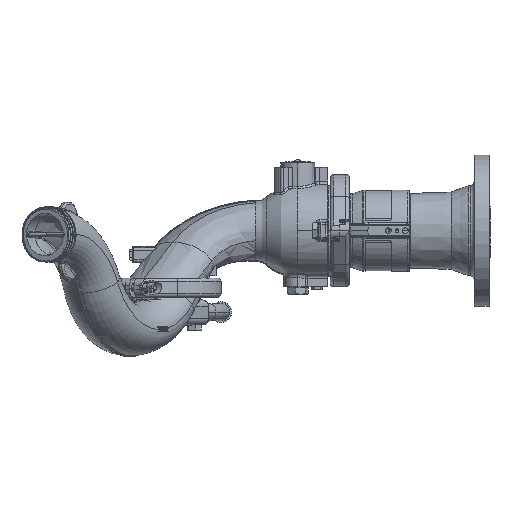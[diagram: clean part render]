
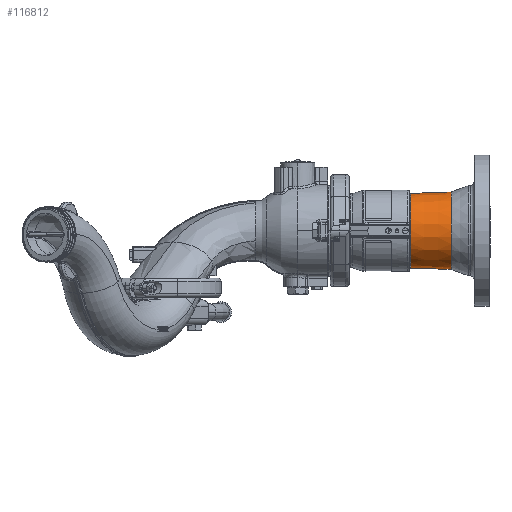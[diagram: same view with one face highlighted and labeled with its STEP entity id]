
A CAD part, left-side view. The second image highlights one B-rep face of the part: STEP entity #116812.
In plain terms, the highlighted conical face has half-angle 2.004 degrees and reference radius 53.046 mm.
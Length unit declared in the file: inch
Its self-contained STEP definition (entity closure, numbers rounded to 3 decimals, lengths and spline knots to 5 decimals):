
#7626 = CARTESIAN_POINT ( 'NONE',  ( 0., -3.44026, -2.08844 ) ) ;
#7627 = DIRECTION ( 'NONE',  ( 0., -0.999, -0.035 ) ) ;
#7634 = DIRECTION ( 'NONE',  ( 0., -0.999, 0.035 ) ) ;
#7635 = CARTESIAN_POINT ( 'NONE',  ( 0., -6.67562, 0. ) ) ;
#7636 = DIRECTION ( 'NONE',  ( 0., -1., 0. ) ) ;
#7637 = DIRECTION ( 'NONE',  ( 0., 0., 1. ) ) ;
#7638 = CARTESIAN_POINT ( 'NONE',  ( 0., -3.44026, 2.08844 ) ) ;
#7639 = CARTESIAN_POINT ( 'NONE',  ( 0., -9.0392, 0. ) ) ;
#7640 = DIRECTION ( 'NONE',  ( 0., -1., 0. ) ) ;
#7641 = DIRECTION ( 'NONE',  ( 0., 0., 1. ) ) ;
#16526 = AXIS2_PLACEMENT_3D ( 'NONE', #7635, #7636, #7637 ) ;
#16529 = AXIS2_PLACEMENT_3D ( 'NONE', #7639, #7640, #7641 ) ;
#18166 = ORIENTED_EDGE ( 'NONE', *, *, #19646, .T. ) ;
#18167 = ORIENTED_EDGE ( 'NONE', *, *, #19644, .T. ) ;
#18168 = ORIENTED_EDGE ( 'NONE', *, *, #19649, .F. ) ;
#18169 = ORIENTED_EDGE ( 'NONE', *, *, #19651, .F. ) ;
#19644 = EDGE_CURVE ( 'NONE', #142839, #142799, #26351, .T. ) ;
#19646 = EDGE_CURVE ( 'NONE', #142781, #142839, #26348, .T. ) ;
#19649 = EDGE_CURVE ( 'NONE', #142795, #142799, #26354, .T. ) ;
#19651 = EDGE_CURVE ( 'NONE', #142781, #142795, #26352, .T. ) ;
#26348 = CIRCLE ( 'NONE', #16526, 2.20162 ) ;
#26351 = LINE ( 'NONE', #7626, #26353 ) ;
#26352 = LINE ( 'NONE', #7638, #26360 ) ;
#26353 = VECTOR ( 'NONE', #7627, 39.37008 ) ;
#26354 = CIRCLE ( 'NONE', #16529, 2.28431 ) ;
#26360 = VECTOR ( 'NONE', #7634, 39.37008 ) ;
#42414 = FACE_OUTER_BOUND ( 'NONE', #52222, .T. ) ;
#42433 = CONICAL_SURFACE ( 'NONE', #97664, 2.08844, 0.035 ) ;
#52222 = EDGE_LOOP ( 'NONE', ( #18166, #18167, #18168, #18169 ) ) ;
#64555 = CARTESIAN_POINT ( 'NONE',  ( 0., -6.67562, 2.20162 ) ) ;
#64569 = CARTESIAN_POINT ( 'NONE',  ( 0., -9.0392, 2.28431 ) ) ;
#64573 = CARTESIAN_POINT ( 'NONE',  ( 0., -9.0392, -2.28431 ) ) ;
#64613 = CARTESIAN_POINT ( 'NONE',  ( 0., -6.67562, -2.20162 ) ) ;
#93675 = DIRECTION ( 'NONE',  ( 0., 0., 1. ) ) ;
#93682 = DIRECTION ( 'NONE',  ( 0., -1., 0. ) ) ;
#93684 = CARTESIAN_POINT ( 'NONE',  ( 0., -3.44026, 0. ) ) ;
#97664 = AXIS2_PLACEMENT_3D ( 'NONE', #93684, #93682, #93675 ) ;
#116812 = ADVANCED_FACE ( 'NONE', ( #42414 ), #42433, .T. ) ;
#142781 = VERTEX_POINT ( 'NONE', #64555 ) ;
#142795 = VERTEX_POINT ( 'NONE', #64569 ) ;
#142799 = VERTEX_POINT ( 'NONE', #64573 ) ;
#142839 = VERTEX_POINT ( 'NONE', #64613 ) ;
